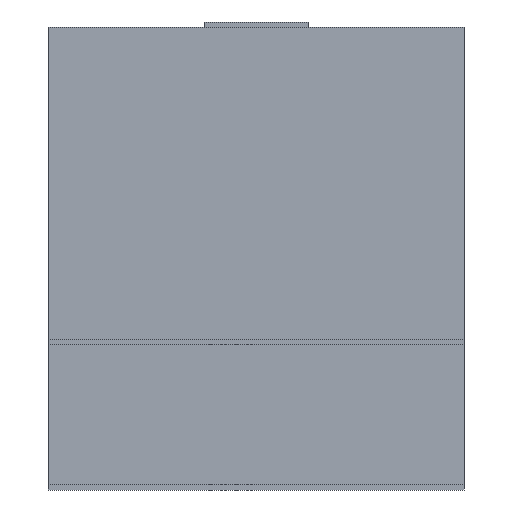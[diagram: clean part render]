
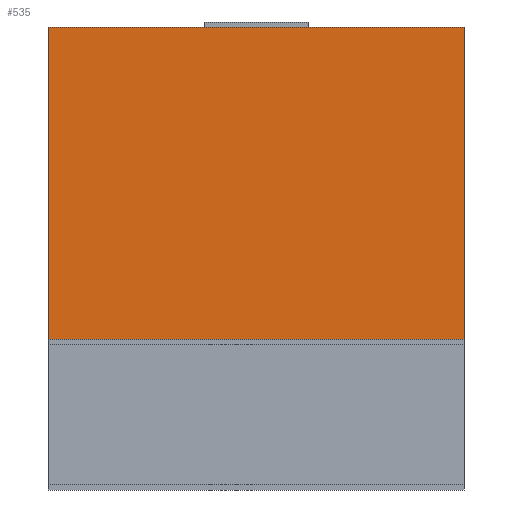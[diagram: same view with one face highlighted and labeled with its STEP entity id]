
A CAD part, front view. The second image highlights one B-rep face of the part: STEP entity #535.
In plain terms, the highlighted planar face has unit normal (0, -1, 0).
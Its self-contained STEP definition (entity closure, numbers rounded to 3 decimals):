
#119 = PLANE('',#120);
#120 = AXIS2_PLACEMENT_3D('',#121,#122,#123);
#121 = CARTESIAN_POINT('',(-0.4,-0.8,0.28));
#122 = DIRECTION('',(0.,0.,1.));
#123 = DIRECTION('',(1.,0.,0.));
#235 = VERTEX_POINT('',#236);
#236 = CARTESIAN_POINT('',(0.4,-0.5,0.28));
#289 = VERTEX_POINT('',#290);
#290 = CARTESIAN_POINT('',(-0.4,-0.5,0.28));
#313 = EDGE_CURVE('',#235,#289,#314,.T.);
#314 = SURFACE_CURVE('',#315,(#319,#325),.PCURVE_S1.);
#315 = LINE('',#316,#317);
#316 = CARTESIAN_POINT('',(-0.4,-0.5,0.28));
#317 = VECTOR('',#318,1.);
#318 = DIRECTION('',(-1.,0.,0.));
#319 = PCURVE('',#119,#320);
#320 = DEFINITIONAL_REPRESENTATION('',(#321),#324);
#321 = B_SPLINE_CURVE_WITH_KNOTS('',1,(#322,#323),.UNSPECIFIED.,.F.,.F.,
  (2,2),(-0.88,0.08),.PIECEWISE_BEZIER_KNOTS.);
#322 = CARTESIAN_POINT('',(0.88,0.3));
#323 = CARTESIAN_POINT('',(-0.08,0.3));
#324 = ( GEOMETRIC_REPRESENTATION_CONTEXT(2) 
PARAMETRIC_REPRESENTATION_CONTEXT() REPRESENTATION_CONTEXT('2D SPACE',''
  ) );
#325 = PCURVE('',#326,#331);
#326 = PLANE('',#327);
#327 = AXIS2_PLACEMENT_3D('',#328,#329,#330);
#328 = CARTESIAN_POINT('',(-0.4,-0.5,0.));
#329 = DIRECTION('',(0.,1.,0.));
#330 = DIRECTION('',(0.,0.,1.));
#331 = DEFINITIONAL_REPRESENTATION('',(#332),#335);
#332 = B_SPLINE_CURVE_WITH_KNOTS('',1,(#333,#334),.UNSPECIFIED.,.F.,.F.,
  (2,2),(-0.88,0.08),.PIECEWISE_BEZIER_KNOTS.);
#333 = CARTESIAN_POINT('',(0.28,0.88));
#334 = CARTESIAN_POINT('',(0.28,-0.08));
#335 = ( GEOMETRIC_REPRESENTATION_CONTEXT(2) 
PARAMETRIC_REPRESENTATION_CONTEXT() REPRESENTATION_CONTEXT('2D SPACE',''
  ) );
#524 = PLANE('',#525);
#525 = AXIS2_PLACEMENT_3D('',#526,#527,#528);
#526 = CARTESIAN_POINT('',(0.4,-0.5,0.));
#527 = DIRECTION('',(1.,0.,0.));
#528 = DIRECTION('',(0.,0.,1.));
#535 = ADVANCED_FACE('',(#536),#326,.F.);
#536 = FACE_BOUND('',#537,.F.);
#537 = EDGE_LOOP('',(#538,#561,#562,#590));
#538 = ORIENTED_EDGE('',*,*,#539,.F.);
#539 = EDGE_CURVE('',#235,#540,#542,.T.);
#540 = VERTEX_POINT('',#541);
#541 = CARTESIAN_POINT('',(0.4,-0.5,0.89));
#542 = SURFACE_CURVE('',#543,(#547,#554),.PCURVE_S1.);
#543 = LINE('',#544,#545);
#544 = CARTESIAN_POINT('',(0.4,-0.5,0.));
#545 = VECTOR('',#546,1.);
#546 = DIRECTION('',(0.,0.,1.));
#547 = PCURVE('',#326,#548);
#548 = DEFINITIONAL_REPRESENTATION('',(#549),#553);
#549 = LINE('',#550,#551);
#550 = CARTESIAN_POINT('',(0.,0.8));
#551 = VECTOR('',#552,1.);
#552 = DIRECTION('',(1.,0.));
#553 = ( GEOMETRIC_REPRESENTATION_CONTEXT(2) 
PARAMETRIC_REPRESENTATION_CONTEXT() REPRESENTATION_CONTEXT('2D SPACE',''
  ) );
#554 = PCURVE('',#524,#555);
#555 = DEFINITIONAL_REPRESENTATION('',(#556),#560);
#556 = LINE('',#557,#558);
#557 = CARTESIAN_POINT('',(0.,0.));
#558 = VECTOR('',#559,1.);
#559 = DIRECTION('',(1.,0.));
#560 = ( GEOMETRIC_REPRESENTATION_CONTEXT(2) 
PARAMETRIC_REPRESENTATION_CONTEXT() REPRESENTATION_CONTEXT('2D SPACE',''
  ) );
#561 = ORIENTED_EDGE('',*,*,#313,.T.);
#562 = ORIENTED_EDGE('',*,*,#563,.T.);
#563 = EDGE_CURVE('',#289,#564,#566,.T.);
#564 = VERTEX_POINT('',#565);
#565 = CARTESIAN_POINT('',(-0.4,-0.5,0.89));
#566 = SURFACE_CURVE('',#567,(#571,#578),.PCURVE_S1.);
#567 = LINE('',#568,#569);
#568 = CARTESIAN_POINT('',(-0.4,-0.5,0.));
#569 = VECTOR('',#570,1.);
#570 = DIRECTION('',(0.,0.,1.));
#571 = PCURVE('',#326,#572);
#572 = DEFINITIONAL_REPRESENTATION('',(#573),#577);
#573 = LINE('',#574,#575);
#574 = CARTESIAN_POINT('',(0.,0.));
#575 = VECTOR('',#576,1.);
#576 = DIRECTION('',(1.,0.));
#577 = ( GEOMETRIC_REPRESENTATION_CONTEXT(2) 
PARAMETRIC_REPRESENTATION_CONTEXT() REPRESENTATION_CONTEXT('2D SPACE',''
  ) );
#578 = PCURVE('',#579,#584);
#579 = PLANE('',#580);
#580 = AXIS2_PLACEMENT_3D('',#581,#582,#583);
#581 = CARTESIAN_POINT('',(-0.4,-0.5,0.));
#582 = DIRECTION('',(1.,0.,0.));
#583 = DIRECTION('',(0.,0.,1.));
#584 = DEFINITIONAL_REPRESENTATION('',(#585),#589);
#585 = LINE('',#586,#587);
#586 = CARTESIAN_POINT('',(0.,0.));
#587 = VECTOR('',#588,1.);
#588 = DIRECTION('',(1.,0.));
#589 = ( GEOMETRIC_REPRESENTATION_CONTEXT(2) 
PARAMETRIC_REPRESENTATION_CONTEXT() REPRESENTATION_CONTEXT('2D SPACE',''
  ) );
#590 = ORIENTED_EDGE('',*,*,#591,.T.);
#591 = EDGE_CURVE('',#564,#540,#592,.T.);
#592 = SURFACE_CURVE('',#593,(#597,#604),.PCURVE_S1.);
#593 = LINE('',#594,#595);
#594 = CARTESIAN_POINT('',(-0.4,-0.5,0.89));
#595 = VECTOR('',#596,1.);
#596 = DIRECTION('',(1.,0.,0.));
#597 = PCURVE('',#326,#598);
#598 = DEFINITIONAL_REPRESENTATION('',(#599),#603);
#599 = LINE('',#600,#601);
#600 = CARTESIAN_POINT('',(0.89,0.));
#601 = VECTOR('',#602,1.);
#602 = DIRECTION('',(0.,1.));
#603 = ( GEOMETRIC_REPRESENTATION_CONTEXT(2) 
PARAMETRIC_REPRESENTATION_CONTEXT() REPRESENTATION_CONTEXT('2D SPACE',''
  ) );
#604 = PCURVE('',#605,#610);
#605 = PLANE('',#606);
#606 = AXIS2_PLACEMENT_3D('',#607,#608,#609);
#607 = CARTESIAN_POINT('',(-0.4,-0.5,0.89));
#608 = DIRECTION('',(0.,0.,1.));
#609 = DIRECTION('',(1.,0.,0.));
#610 = DEFINITIONAL_REPRESENTATION('',(#611),#615);
#611 = LINE('',#612,#613);
#612 = CARTESIAN_POINT('',(0.,0.));
#613 = VECTOR('',#614,1.);
#614 = DIRECTION('',(1.,0.));
#615 = ( GEOMETRIC_REPRESENTATION_CONTEXT(2) 
PARAMETRIC_REPRESENTATION_CONTEXT() REPRESENTATION_CONTEXT('2D SPACE',''
  ) );
